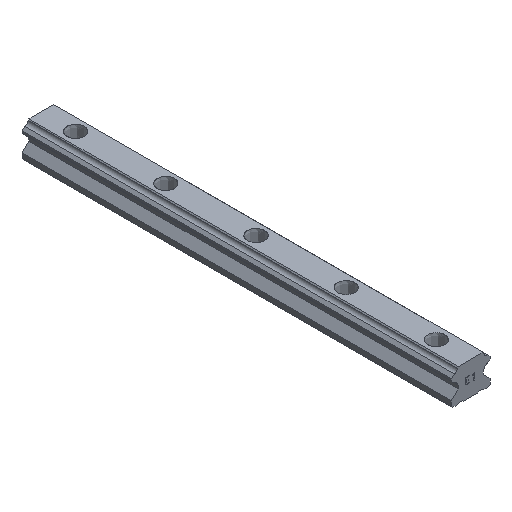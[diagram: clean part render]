
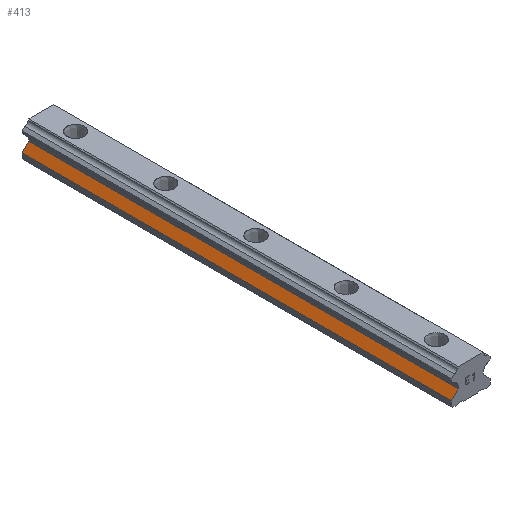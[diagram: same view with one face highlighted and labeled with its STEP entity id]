
A CAD part, isometric view. The second image highlights one B-rep face of the part: STEP entity #413.
In plain terms, the highlighted planar face has unit normal (-0.707, 0, 0.707).
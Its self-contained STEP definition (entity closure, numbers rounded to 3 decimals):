
#413=ADVANCED_FACE('',(#1633),#1635,.T.);
#1633=FACE_BOUND('',#1634,.T.);
#1634=EDGE_LOOP('',(#2516,#2517,#2518,#2519));
#1635=PLANE('',#1636);
#1636=AXIS2_PLACEMENT_3D('',#1637,#1638,#1639);
#1637=CARTESIAN_POINT('',(-14.501,500.,15.5));
#1638=DIRECTION('',(-0.707,0.,0.707));
#1639=DIRECTION('',(-0.707,0.,-0.707));
#2516=ORIENTED_EDGE('',*,*,#3177,.F.);
#2517=ORIENTED_EDGE('',*,*,#3302,.T.);
#2518=ORIENTED_EDGE('',*,*,#3211,.F.);
#2519=ORIENTED_EDGE('',*,*,#3303,.F.);
#3177=EDGE_CURVE('',#3517,#3519,#3520,.T.);
#3211=EDGE_CURVE('',#3583,#3585,#3586,.T.);
#3302=EDGE_CURVE('',#3517,#3585,#3744,.T.);
#3303=EDGE_CURVE('',#3519,#3583,#3745,.T.);
#3517=VERTEX_POINT('',#5305);
#3519=VERTEX_POINT('',#5309);
#3520=LINE('',#5310,#5311);
#3583=VERTEX_POINT('',#5439);
#3585=VERTEX_POINT('',#5443);
#3586=LINE('',#5444,#5445);
#3744=LINE('',#7161,#7162);
#3745=LINE('',#7164,#7165);
#5305=CARTESIAN_POINT('',(-14.501,0.,15.5));
#5309=CARTESIAN_POINT('',(-22.501,0.,7.5));
#5310=CARTESIAN_POINT('',(-14.501,0.,15.5));
#5311=VECTOR('',#5312,1.);
#5312=DIRECTION('',(-0.707,0.,-0.707));
#5439=CARTESIAN_POINT('',(-22.501,500.,7.5));
#5443=CARTESIAN_POINT('',(-14.501,500.,15.5));
#5444=CARTESIAN_POINT('',(-22.501,500.,7.5));
#5445=VECTOR('',#5446,1.);
#5446=DIRECTION('',(0.707,0.,0.707));
#7161=CARTESIAN_POINT('',(-14.501,0.,15.5));
#7162=VECTOR('',#7163,1.);
#7163=DIRECTION('',(0.,1.,0.));
#7164=CARTESIAN_POINT('',(-22.501,0.,7.5));
#7165=VECTOR('',#7166,1.);
#7166=DIRECTION('',(0.,1.,0.));
